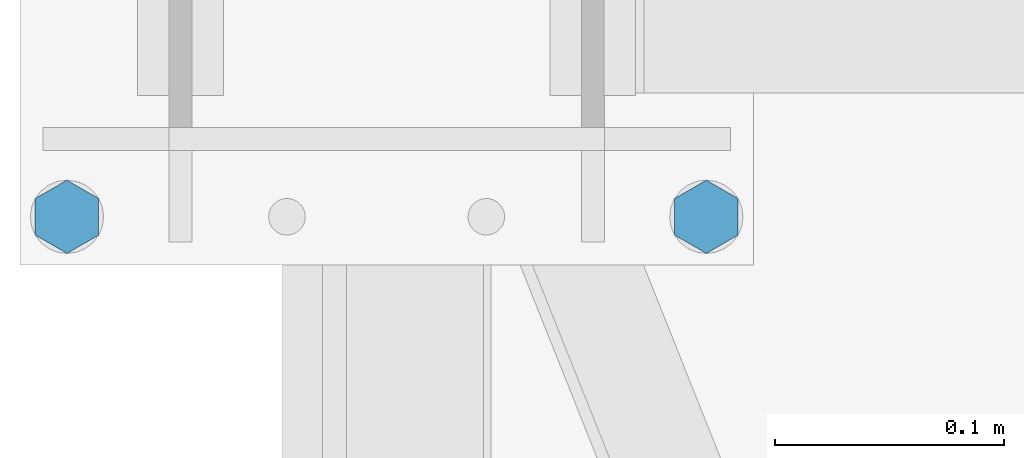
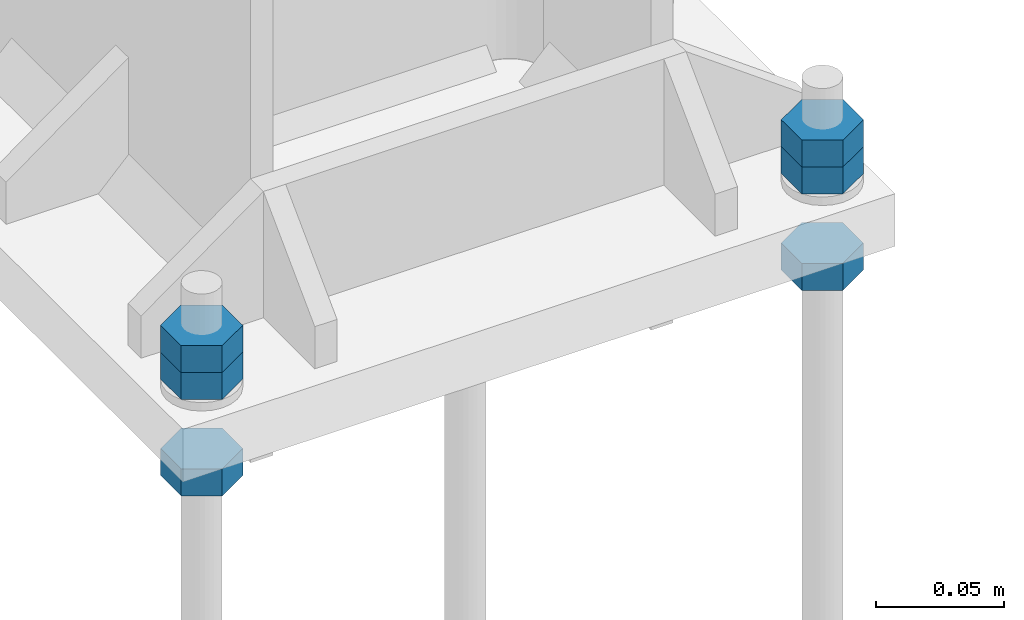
# One storey, part 134 of 251: 6 mechanical fasteners.
"""IFC4 building model written with IfcOpenShell, lengths in metres."""

from ifc_helpers import new_model, si_unit, frame, origin_with_axes, place, context, project, spatial, polyline, outline, extrude, type_object, element, save


model = new_model("IFC4")

# Units and contexts
model_context = context("Model", 3, precision=1e-05, world=origin_with_axes())
ifc_project = project(units=[si_unit("LENGTHUNIT", "METRE"), si_unit("AREAUNIT", "SQUARE_METRE"), si_unit("VOLUMEUNIT", "CUBIC_METRE"), si_unit("MASSUNIT", "GRAM", prefix="KILO"), si_unit("TIMEUNIT", "SECOND"), si_unit("PLANEANGLEUNIT", "RADIAN"), si_unit("SOLIDANGLEUNIT", "STERADIAN"), si_unit("THERMODYNAMICTEMPERATUREUNIT", "DEGREE_CELSIUS")], contexts=[model_context])

# Site, building, storey
placement_1 = place(None, origin_with_axes())
site = spatial("IfcSite", under=ifc_project, at=placement_1, Name="Italia", CompositionType="ELEMENT")
building = spatial("IfcBuilding", under=site, at=placement_1, Name="Deposito", CompositionType="ELEMENT")
storey = spatial("IfcBuildingStorey", under=building, at=placement_1, Name="Storey 0", CompositionType="ELEMENT", Elevation=0.0)

# Mechanical fasteners
mechanical_fastener_type_1 = type_object("IfcMechanicalFastenerType", Name="Collegamenti 0014_-001 0016_-054 0018_-056 0032_-002 0033_-058 0047_-003 0048_-060 0062_-004 0063_-005 0079_-008", PredefinedType="BOLT")
placement_2 = place(placement_1, origin_with_axes())
mechanical_fastener_1_placement = place(placement_2, origin_with_axes())
element("IfcMechanicalFastener", 1, at=mechanical_fastener_1_placement, inside=storey, type_object=mechanical_fastener_type_1, Name="Collegamenti 0014_-001 0016_-054 0018_-056 0032_-002 0033_-058 0047_-003 0048_-060 0062_-004 0063_-005 0079_-008", NominalDiameter=0.0160001, context=model_context, shape_type="SweptSolid", body=[
    extrude(outline(polyline([(0.0, 0.0), (-0.0160007, 0.0), (-0.0240002, 0.0138569), (-0.0160007, 0.0277138), (0.0, 0.0277138), (0.00799942, 0.0138569), (0.0, 0.0)])), frame((6.20336, 14.869, 0.079), z_axis=(0.0, 0.0, 1.0), x_axis=(0.0, 1.0, 0.0)), (0.0, 0.0, 1.0), 0.0128),
])
mechanical_fastener_type_2 = type_object("IfcMechanicalFastenerType", Name="Collegamenti 0014_-001 0016_-054 0018_-056 0032_-002 0033_-058 0047_-003 0048_-060 0062_-004 0063_-005 0079_-008", PredefinedType="BOLT")
mechanical_fastener_2_placement = place(placement_2, origin_with_axes())
element("IfcMechanicalFastener", 2, at=mechanical_fastener_2_placement, inside=storey, type_object=mechanical_fastener_type_2, Name="Collegamenti 0014_-001 0016_-054 0018_-056 0032_-002 0033_-058 0047_-003 0048_-060 0062_-004 0063_-005 0079_-008", NominalDiameter=0.0160001, context=model_context, shape_type="SweptSolid", body=[
    extrude(outline(polyline([(0.0, 0.0), (-0.0160007, 0.0), (-0.0240002, 0.0138569), (-0.0160007, 0.0277138), (0.0, 0.0277138), (0.00799942, 0.0138569), (0.0, 0.0)])), frame((6.20336, 14.869, 0.0918), z_axis=(0.0, 0.0, 1.0), x_axis=(0.0, 1.0, 0.0)), (0.0, 0.0, 1.0), 0.0128),
])
mechanical_fastener_type_3 = type_object("IfcMechanicalFastenerType", Name="Collegamenti 0014_-001 0016_-054 0018_-056 0032_-002 0033_-058 0047_-003 0048_-060 0062_-004 0063_-005 0079_-008", PredefinedType="BOLT")
mechanical_fastener_3_placement = place(placement_2, origin_with_axes())
element("IfcMechanicalFastener", 3, at=mechanical_fastener_3_placement, inside=storey, type_object=mechanical_fastener_type_3, Name="Collegamenti 0014_-001 0016_-054 0018_-056 0032_-002 0033_-058 0047_-003 0048_-060 0062_-004 0063_-005 0079_-008", NominalDiameter=0.0160001, context=model_context, shape_type="SweptSolid", body=[
    extrude(outline(polyline([(0.0, 0.0), (-0.0160007, 0.0), (-0.0240002, 0.0138569), (-0.0160007, 0.0277138), (0.0, 0.0277138), (0.00799942, 0.0138569), (0.0, 0.0)])), frame((6.20336, 14.869, 0.0332), z_axis=(0.0, 0.0, 1.0), x_axis=(0.0, 1.0, 0.0)), (0.0, 0.0, 1.0), 0.0128),
])
mechanical_fastener_type_4 = type_object("IfcMechanicalFastenerType", Name="Collegamenti 0014_-001 0016_-054 0018_-056 0032_-002 0033_-058 0047_-003 0048_-060 0062_-004 0063_-005 0079_-008", PredefinedType="BOLT")
mechanical_fastener_4_placement = place(placement_2, origin_with_axes())
element("IfcMechanicalFastener", 4, at=mechanical_fastener_4_placement, inside=storey, type_object=mechanical_fastener_type_4, Name="Collegamenti 0014_-001 0016_-054 0018_-056 0032_-002 0033_-058 0047_-003 0048_-060 0062_-004 0063_-005 0079_-008", NominalDiameter=0.0160001, context=model_context, shape_type="SweptSolid", body=[
    extrude(outline(polyline([(0.0, 0.0), (-0.0160007, 0.0), (-0.0240002, 0.0138569), (-0.0160007, 0.0277138), (0.0, 0.0277138), (0.00799942, 0.0138569), (0.0, 0.0)])), frame((5.92436, 14.869, 0.079), z_axis=(0.0, 0.0, 1.0), x_axis=(0.0, 1.0, 0.0)), (0.0, 0.0, 1.0), 0.0128),
])
mechanical_fastener_type_5 = type_object("IfcMechanicalFastenerType", Name="Collegamenti 0014_-001 0016_-054 0018_-056 0032_-002 0033_-058 0047_-003 0048_-060 0062_-004 0063_-005 0079_-008", PredefinedType="BOLT")
mechanical_fastener_5_placement = place(placement_2, origin_with_axes())
element("IfcMechanicalFastener", 5, at=mechanical_fastener_5_placement, inside=storey, type_object=mechanical_fastener_type_5, Name="Collegamenti 0014_-001 0016_-054 0018_-056 0032_-002 0033_-058 0047_-003 0048_-060 0062_-004 0063_-005 0079_-008", NominalDiameter=0.0160001, context=model_context, shape_type="SweptSolid", body=[
    extrude(outline(polyline([(0.0, 0.0), (-0.0160007, 0.0), (-0.0240002, 0.0138569), (-0.0160007, 0.0277138), (0.0, 0.0277138), (0.00799942, 0.0138569), (0.0, 0.0)])), frame((5.92436, 14.869, 0.0918), z_axis=(0.0, 0.0, 1.0), x_axis=(0.0, 1.0, 0.0)), (0.0, 0.0, 1.0), 0.0128),
])
mechanical_fastener_type_6 = type_object("IfcMechanicalFastenerType", Name="Collegamenti 0014_-001 0016_-054 0018_-056 0032_-002 0033_-058 0047_-003 0048_-060 0062_-004 0063_-005 0079_-008", PredefinedType="BOLT")
mechanical_fastener_6_placement = place(placement_2, origin_with_axes())
element("IfcMechanicalFastener", 6, at=mechanical_fastener_6_placement, inside=storey, type_object=mechanical_fastener_type_6, Name="Collegamenti 0014_-001 0016_-054 0018_-056 0032_-002 0033_-058 0047_-003 0048_-060 0062_-004 0063_-005 0079_-008", NominalDiameter=0.0160001, context=model_context, shape_type="SweptSolid", body=[
    extrude(outline(polyline([(0.0, 0.0), (-0.0160007, 0.0), (-0.0240002, 0.0138569), (-0.0160007, 0.0277138), (0.0, 0.0277138), (0.00799942, 0.0138569), (0.0, 0.0)])), frame((5.92436, 14.869, 0.0332), z_axis=(0.0, 0.0, 1.0), x_axis=(0.0, 1.0, 0.0)), (0.0, 0.0, 1.0), 0.0128),
])

save(model, "model.ifc")
